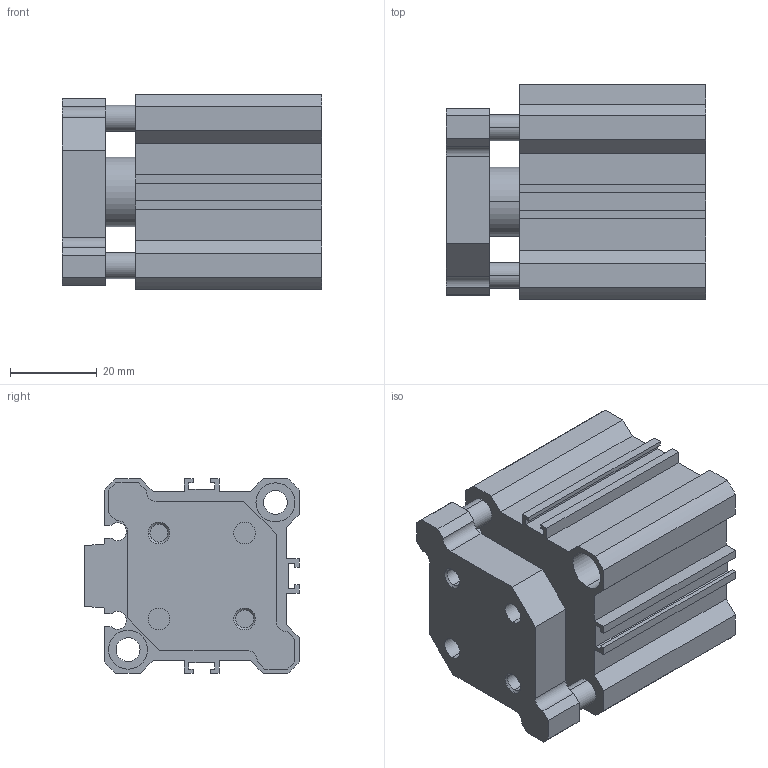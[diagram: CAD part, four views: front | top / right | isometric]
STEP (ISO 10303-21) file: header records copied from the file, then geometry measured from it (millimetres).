
FILE_DESCRIPTION (( 'STEP AP203' ), '1' );
FILE_NAME ('CCMG32-10.STEP', '2020-04-01T18:22:19', ( '' ), ( '' ), 'SwSTEP 2.0', 'SolidWorks 2019', '' );
FILE_SCHEMA (( 'CONFIG_CONTROL_DESIGN' ));
Length unit declared in the file: millimetre
Products named in the file (1): CCMG32-10
Bounding box: 60 x 49.5 x 45 mm (x, y, z)
Volume: 83028.5 mm3; surface area: 30595.5 mm2
Topology: 2 solids, 2 shells, 165 faces, 431 edges, 280 vertices
Faces by surface type: plane 92, cylinder 57, cone 16
Entity records: 5134 total; most frequent: DIRECTION 885, CARTESIAN_POINT 873, ORIENTED_EDGE 854, EDGE_CURVE 427, LINE 301, VECTOR 301, AXIS2_PLACEMENT_3D 292, VERTEX_POINT 280
